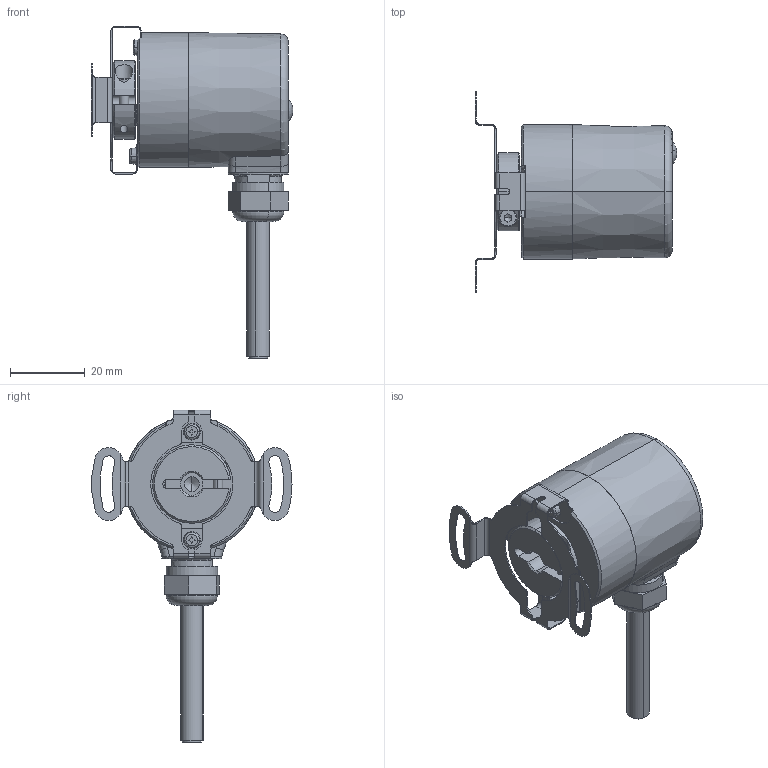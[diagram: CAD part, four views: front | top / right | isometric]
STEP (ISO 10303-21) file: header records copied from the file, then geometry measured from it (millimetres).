
FILE_DESCRIPTION (( 'STEP AP214' ), '1' );
FILE_NAME ('3671.52X2.XXXX.STEP', '2008-09-12T06:39:11', ( 'admin' ), ( 'Fritz Kübler GmbH' ), 'SwSTEP 2.0', 'SolidWorks 2008', '' );
FILE_SCHEMA (( 'AUTOMOTIVE_DESIGN' ));
Length unit declared in the file: millimetre
Products named in the file (1): 3671.52X2.XXXX
Bounding box: 53.99 x 53.5 x 88.8 mm (x, y, z)
Volume: 24682.5 mm3; surface area: 24761.1 mm2
Topology: 12 solids, 12 shells, 663 faces, 1601 edges, 995 vertices
Faces by surface type: cylinder 262, plane 192, cone 129, torus 67, bspline 7, sphere 6
Entity records: 27599 total; most frequent: CARTESIAN_POINT 4405, DIRECTION 3530, ORIENTED_EDGE 3158, EDGE_CURVE 1579, AXIS2_PLACEMENT_3D 1433, VERTEX_POINT 995, CIRCLE 776, EDGE_LOOP 742
